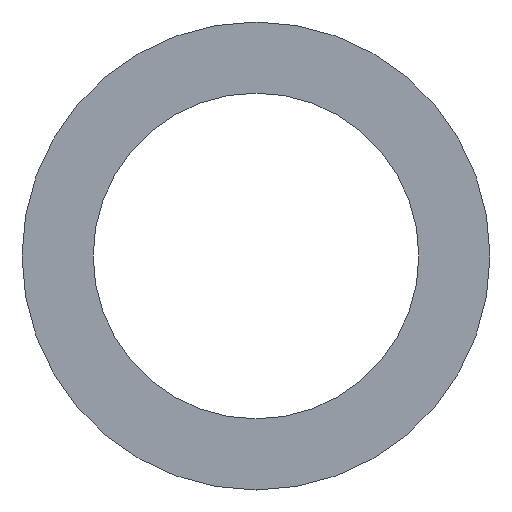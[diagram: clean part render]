
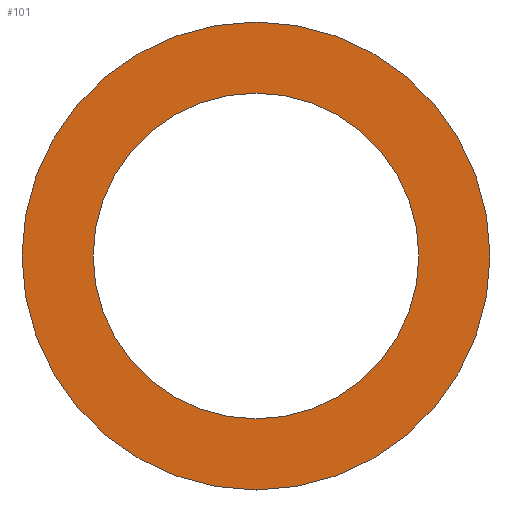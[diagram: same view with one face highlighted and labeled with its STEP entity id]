
A CAD part, left-side view. The second image highlights one B-rep face of the part: STEP entity #101.
In plain terms, the highlighted planar face has unit normal (-1, 0, 0).
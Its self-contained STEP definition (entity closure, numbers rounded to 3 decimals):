
#20=FACE_BOUND('',#38,.T.);
#23=PLANE('',#128);
#28=FACE_OUTER_BOUND('',#37,.T.);
#37=EDGE_LOOP('',(#86));
#38=EDGE_LOOP('',(#87));
#52=CIRCLE('',#124,12.5);
#55=CIRCLE('',#129,8.7);
#59=VERTEX_POINT('',#177);
#62=VERTEX_POINT('',#186);
#68=EDGE_CURVE('',#59,#59,#52,.T.);
#71=EDGE_CURVE('',#62,#62,#55,.T.);
#86=ORIENTED_EDGE('',*,*,#68,.F.);
#87=ORIENTED_EDGE('',*,*,#71,.F.);
#101=ADVANCED_FACE('',(#28,#20),#23,.F.);
#124=AXIS2_PLACEMENT_3D('',#179,#148,#149);
#128=AXIS2_PLACEMENT_3D('',#185,#156,#157);
#129=AXIS2_PLACEMENT_3D('',#187,#158,#159);
#148=DIRECTION('center_axis',(1.,0.,0.));
#149=DIRECTION('ref_axis',(0.,0.94,0.342));
#156=DIRECTION('center_axis',(1.,0.,0.));
#157=DIRECTION('ref_axis',(0.,-0.985,-0.174));
#158=DIRECTION('center_axis',(-1.,0.,0.));
#159=DIRECTION('ref_axis',(0.,0.94,0.342));
#177=CARTESIAN_POINT('',(148.026,-311.747,-15.36));
#179=CARTESIAN_POINT('Origin',(148.026,-300.,-11.085));
#185=CARTESIAN_POINT('Origin',(148.026,-300.,-11.085));
#186=CARTESIAN_POINT('',(148.026,-308.176,-14.06));
#187=CARTESIAN_POINT('Origin',(148.026,-300.,-11.085));
